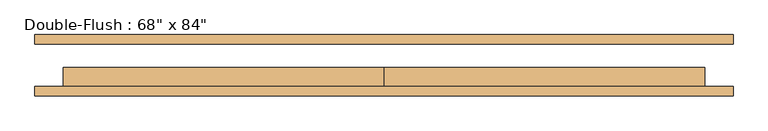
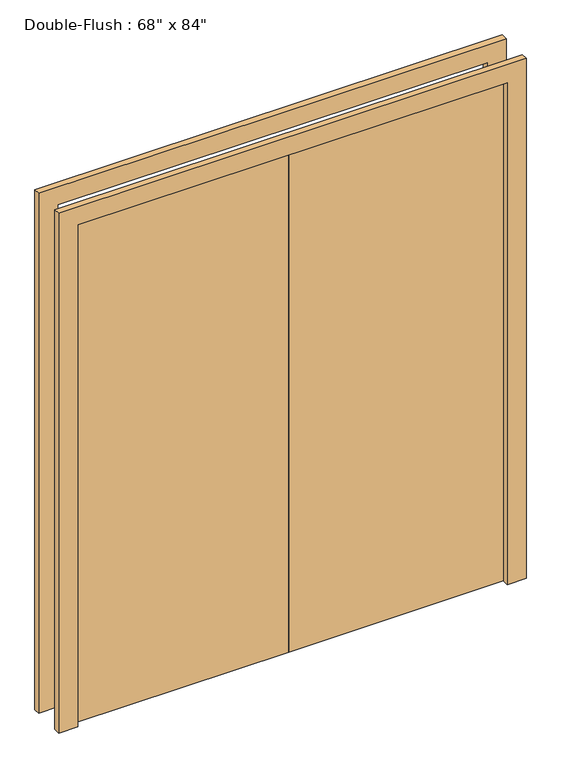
"""IFC4 building model written with IfcOpenShell, lengths in millimetres: door geometry."""

from ifc_helpers import new_model, si_unit, frame, origin, origin_with_axes, place, context, project, spatial, polyline, outline, extrude, source, transform, mapped, element, save


def door_63ee19b0(model_context):
    return source(origin(), model_context, "Body", "SweptSolid", [
        extrude(outline(polyline([(0.0, -57.15), (0.0, -6.35), (863.6, -6.35), (863.6, -57.15), (0.0, -57.15)])), origin_with_axes(), (0.0, 0.0, 1.0), 2133.6),
        extrude(outline(polyline([(-863.6, -57.15), (-863.6, -6.35), (0.0, -6.35), (0.0, -57.15), (-863.6, -57.15)])), origin_with_axes(), (0.0, 0.0, 1.0), 2133.6),
        extrude(outline(polyline([(2133.6, -863.6), (2133.6, 863.6), (0.0, 863.6), (0.0, 939.8), (2209.8, 939.8), (2209.8, -939.8), (0.0, -939.8), (0.0, -863.6), (2133.6, -863.6)])), frame((0.0, 57.15, 0.0), z_axis=(0.0, 1.0, 0.0), x_axis=(0.0, 0.0, 1.0)), (0.0, 0.0, 1.0), 25.4),
        extrude(outline(polyline([(2133.6, -863.6), (2133.6, 863.6), (0.0, 863.6), (0.0, 939.8), (2209.8, 939.8), (2209.8, -939.8), (0.0, -939.8), (0.0, -863.6), (2133.6, -863.6)])), frame((0.0, -82.55, 0.0), z_axis=(0.0, 1.0, 0.0), x_axis=(0.0, 0.0, 1.0)), (0.0, 0.0, 1.0), 25.4),
    ])


if __name__ == "__main__":
    model = new_model("IFC4")
    model_context = context("Model", 3, world=origin())
    ifc_project = project(units=[si_unit("LENGTHUNIT", "METRE", prefix="MILLI")], contexts=[model_context])
    site = spatial("IfcSite", under=ifc_project)
    building = spatial("IfcBuilding", under=site)
    placement = place(None, origin())
    door_shape = door_63ee19b0(model_context)
    element("IfcDoor", 1, ObjectType="Double-Flush : 68\" x 84\"", at=placement, inside=building, context=model_context, shape_type="MappedRepresentation", body=[
        mapped(door_shape, transform((0.0, 0.0, 0.0), x_axis=(1.0, 0.0, 0.0), y_axis=(0.0, 1.0, 0.0), z_axis=(0.0, 0.0, 1.0))),
    ])
    save(model, "model.ifc")
